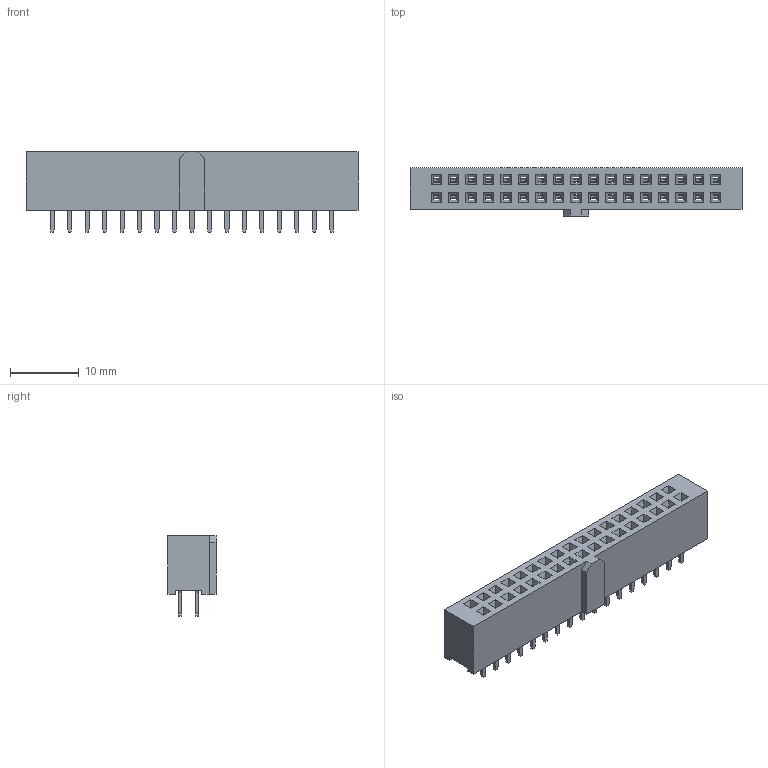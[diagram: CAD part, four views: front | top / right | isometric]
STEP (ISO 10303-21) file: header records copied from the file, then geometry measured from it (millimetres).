
FILE_DESCRIPTION (( 'STEP AP214' ), '1' );
FILE_NAME ('SFH11-PBPC-D17-ST-BK_navX2-mxp-cad.step', '2025-12-23T16:04:39', ( '' ), ( '' ), 'SwSTEP 2.0', 'SolidWorks 2026', '' );
FILE_SCHEMA (( 'AUTOMOTIVE_DESIGN' ));
Length unit declared in the file: inch
Products named in the file (2): SOLID-21_SFH11-PBPC-D17-ST-BK_navX2-mxp-cad; SFH11-PBPC-D17-ST-BK_navX2-mxp-cad
Assembly tree (1 placements, depth 2):
  SFH11-PBPC-D17-ST-BK_navX2-mxp-cad
    SOLID-21_SFH11-PBPC-D17-ST-BK_navX2-mxp-cad
Bounding box: 48.26 x 7 x 11.7 mm (x, y, z)
Volume: 2128.8 mm3; surface area: 3492.7 mm2
Topology: 1 solids, 1 shells, 1818 faces, 5448 edges, 3564 vertices
Faces by surface type: plane 1376, cylinder 442
Entity records: 61033 total; most frequent: ORIENTED_EDGE 10896, CARTESIAN_POINT 10834, DIRECTION 10112, EDGE_CURVE 5448, VECTOR 4428, LINE 4428, VERTEX_POINT 3564, AXIS2_PLACEMENT_3D 2842
